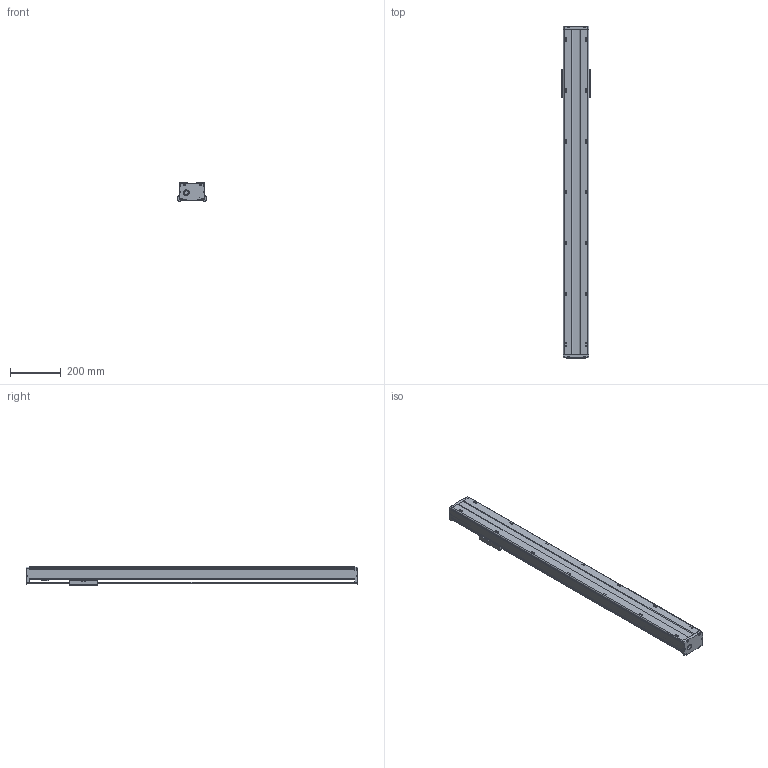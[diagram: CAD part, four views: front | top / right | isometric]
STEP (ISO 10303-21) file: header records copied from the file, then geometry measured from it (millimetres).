
FILE_DESCRIPTION(/* description */ (''),/* implementation_level */ '2;1');
FILE_NAME(/* name */ 'TKA100-1050A1F0_asm1.stp',/* time_stamp */ '2017-02-20T16:29:34+08:00',/* author */ (''),/* organization */ (''),/* preprocessor_version */ 'ST-DEVELOPER v15',/* originating_system */ 'SIEMENS PLM Software NX 8.5',/* authorisation */ '');
FILE_SCHEMA (('AUTOMOTIVE_DESIGN { 1 0 10303 214 3 1 1 1 }'));
Length unit declared in the file: millimetre
Products named in the file (3): 200-02; 200-01; TKA100-1050A1F0_asm1_stp
Assembly tree (2 placements, depth 2):
  TKA100-1050A1F0_asm1_stp
    200-01
    200-02
Bounding box: 110 x 1304 x 71 mm (x, y, z)
Volume: 2613087.9 mm3; surface area: 872726.4 mm2
Topology: 2 solids, 10 shells, 709 faces, 1881 edges, 1230 vertices
Faces by surface type: cylinder 279, plane 263, cone 114, torus 27, bspline 26
Full cylindrical faces by diameter (mm): 2.5 x6, 2.6 x8, 3.3 x8, 3.4 x8, 3.8 x4, 4.2 x23, 4.3 x4, 4.5 x4, 5 x1, 5.5 x22, 6.6 x4, 8 x5, 9 x4, 10 x14, 11 x4, 12 x6, 12.05 x2, 15.3 x1, 15.4 x1, 16 x1, 17 x2, 18 x1, 22 x1, 24 x1, 28 x5, 30 x1
Entity records: 26348 total; most frequent: CARTESIAN_POINT 9902, DIRECTION 3363, ORIENTED_EDGE 3108, EDGE_CURVE 1554, AXIS2_PLACEMENT_3D 1355, VERTEX_POINT 1151, EDGE_LOOP 1046, ADVANCED_FACE 709
